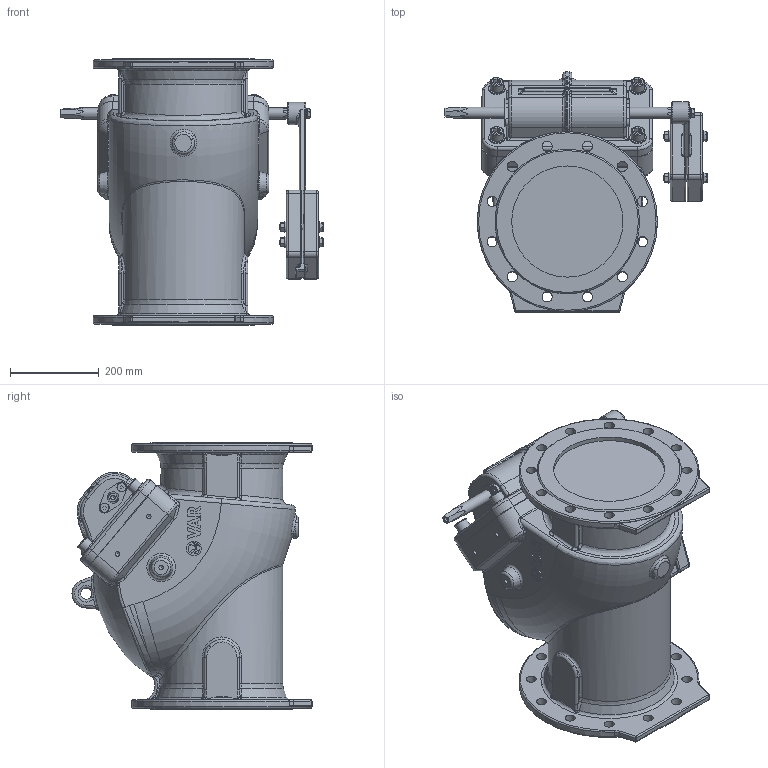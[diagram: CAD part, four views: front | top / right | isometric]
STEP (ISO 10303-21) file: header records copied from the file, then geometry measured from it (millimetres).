
FILE_DESCRIPTION(('STEP AP203'), '1');
FILE_NAME('VAR LIMU-STOP Îáðàòíûé êëàïàí DN 250 PN 10 c ðû÷àãîì è ïðîòèâîâåñîì', '2026-06-28T08:29:13', (' '), (' '), 'C3D Converter', 'C3D Toolkit', '');
FILE_SCHEMA(('CONFIG_CONTROL_DESIGN'));
Length unit declared in the file: millimetre
Products named in the file (1): Admi0C102497dm14
Bounding box: 589 x 539.48 x 600 mm (x, y, z)
Surface area: 1516815.1 mm2
Topology: 14 solids, 15 shells, 1232 faces, 3127 edges, 1944 vertices
Faces by surface type: plane 391, cylinder 300, bspline 203, extrusion 134, torus 104, cone 66, sphere 34
Full cylindrical faces by diameter (mm): 10 x4, 10.106 x8, 11 x4, 11.053 x3, 12 x6, 13 x5, 17.2 x3, 20 x8, 21 x4, 23 x24, 24 x5, 25 x3, 26 x2, 30 x4, 33.237 x1, 37 x4, 50 x1, 250 x2, 405 x2
Entity records: 74445 total; most frequent: CARTESIAN_POINT 38757, ORIENTED_EDGE 5765, DIRECTION 4696, EDGE_CURVE 2886, VERTEX_POINT 1894, AXIS2_PLACEMENT_3D 1749, EDGE_LOOP 1529, FACE_BOUND 1384
